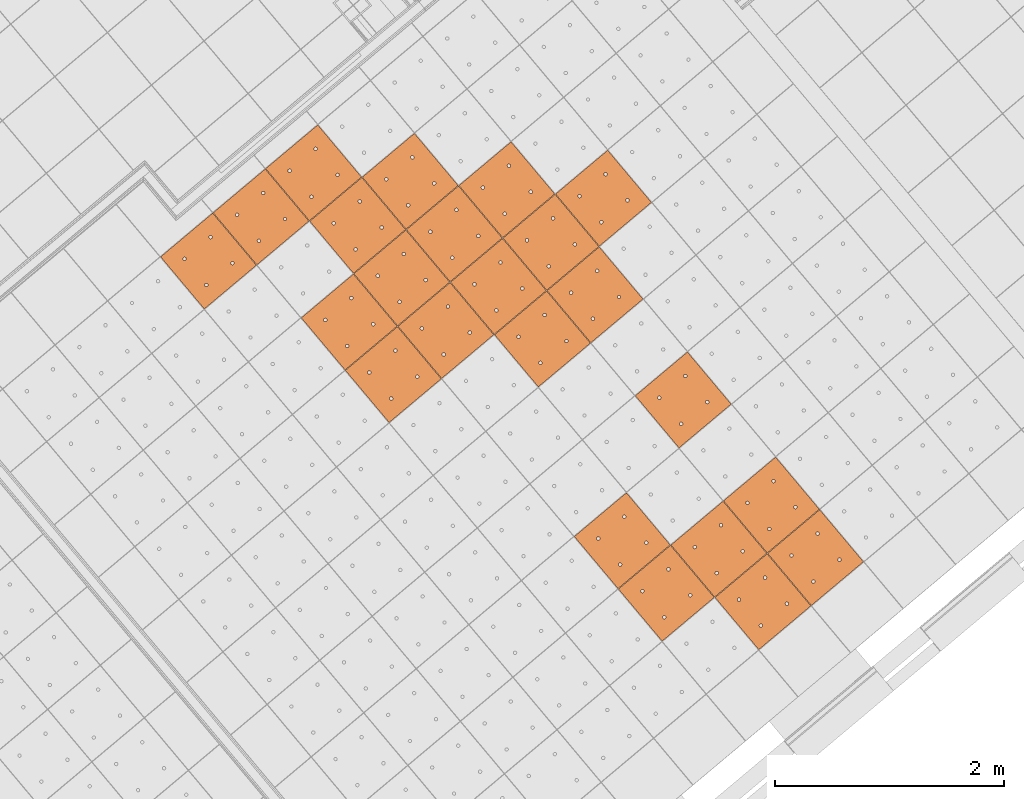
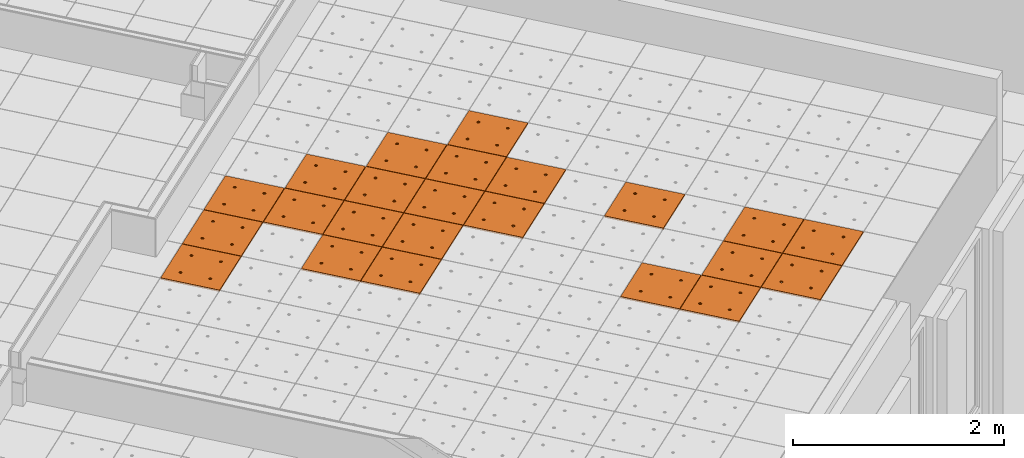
# One storey, part 188 of 338: 23 proxies, 1 element without a shape of its own.
"""IFC2X3 building model written with IfcOpenShell, lengths in millimetres."""

from ifc_helpers import new_model, entity, si_unit, converted_unit, derived_unit, money_unit, direction, frame, origin_with_axes, place, context, subcontext, project, spatial, faceted_brep, source, transform, mapped, material, type_object, type_shapes, element, aggregate, save


model = new_model("IFC2X3")

# Units and contexts
model_context = context("Model", 3, precision=0.01, world=origin_with_axes(), true_north=direction((0.0, 1.0)))
plan_context = context("Plan", 3, precision=0.01, world=origin_with_axes(), true_north=direction((0.0, 1.0)))
body_context = subcontext(model_context, "Body", "Model", "MODEL_VIEW")
ifc_project = project(units=[si_unit("LENGTHUNIT", "METRE", prefix="MILLI"), si_unit("AREAUNIT", "SQUARE_METRE"), si_unit("VOLUMEUNIT", "CUBIC_METRE"), converted_unit("PLANEANGLEUNIT", "DEGREE", entity("IfcPlaneAngleMeasure", 0.0174532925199), si_unit("PLANEANGLEUNIT", "RADIAN"), dimensions=[0, 0, 0, 0, 0, 0, 0]), money_unit("EUR"), converted_unit("TIMEUNIT", "Year", entity("IfcTimeMeasure", 31556926.0), si_unit("TIMEUNIT", "SECOND"), dimensions=[0, 0, 1, 0, 0, 0, 0]), si_unit("MASSUNIT", "GRAM", prefix="KILO"), si_unit("THERMODYNAMICTEMPERATUREUNIT", "DEGREE_CELSIUS"), si_unit("LUMINOUSINTENSITYUNIT", "LUMEN"), si_unit("ENERGYUNIT", "JOULE", prefix="MEGA"), derived_unit("THERMALCONDUCTANCEUNIT", [(si_unit("POWERUNIT", "WATT"), 1), (si_unit("LENGTHUNIT", "METRE"), -1), (si_unit("THERMODYNAMICTEMPERATUREUNIT", "KELVIN"), -1)]), derived_unit("SPECIFICHEATCAPACITYUNIT", [(si_unit("ENERGYUNIT", "JOULE"), 1), (si_unit("MASSUNIT", "GRAM", prefix="KILO"), -1), (si_unit("THERMODYNAMICTEMPERATUREUNIT", "KELVIN"), -1)]), derived_unit("MASSDENSITYUNIT", [(si_unit("MASSUNIT", "GRAM", prefix="KILO"), 1), (si_unit("VOLUMEUNIT", "CUBIC_METRE"), -1)])], contexts=[model_context, plan_context])

# Site, building, storey
site_placement = place(None, origin_with_axes())
site = spatial("IfcSite", under=ifc_project, at=site_placement, Name="Fortuinstraat Woensdrecht", CompositionType="ELEMENT")
building_placement = place(site_placement, origin_with_axes())
building = spatial("IfcBuilding", under=site, at=building_placement, Name="IKC Fortuna", CompositionType="ELEMENT")
storey_placement = place(building_placement, origin_with_axes())
storey = spatial("IfcBuildingStorey", under=building, at=storey_placement, Name="00 begane grond", CompositionType="ELEMENT", Elevation=0.0)

# Covering, proxies
covering_type = type_object("IfcCoveringType", Name="Curtain Wall Type", PredefinedType="CEILING")
covering_placement = place(storey_placement, frame((19785.7448517, -11392.5753808, 4660.0), z_axis=(0.0, 0.0, 1.0), x_axis=(1.0, 0.0, 0.0)))
covering = element("IfcCovering", 1, at=covering_placement, inside=storey, type_object=covering_type, Name="45_Plafondafwerking_P01", PredefinedType="CEILING")
ifc_material = material(Name="Gipsplaat")
building_element_proxy_type = type_object("IfcBuildingElementProxyType", Name="Main Panel 600 x 600 x 20", PredefinedType="NOTDEFINED")
shared_shape = source(origin_with_axes(), body_context, "Body", "Brep", [
    faceted_brep([(2.49999999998, 2.49999999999, -10.0), (300.0, 2.49999999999, -10.0), (300.0, 2.49999999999, 10.0), (2.49999999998, 2.49999999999, 10.0), (2.49999999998, 300.0, -10.0), (2.49999999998, 597.5, -10.0), (300.0, 597.5, -10.0), (597.5, 597.5, -10.0), (597.5, 300.0, -10.0), (597.5, 2.49999999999, -10.0), (166.25, 450.06232995, -10.0), (165.79423259, 452.64711538, -10.0), (164.896546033, 455.11348892, -10.0), (163.58421608, 457.38651108, -10.0), (161.897117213, 459.39711721, -10.0), (159.886511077, 461.08421608, -10.0), (157.613488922, 462.39654603, -10.0), (155.147115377, 463.29423259, -10.0), (152.562329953, 463.75, -10.0), (149.937670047, 463.75, -10.0), (147.352884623, 463.29423259, -10.0), (144.886511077, 462.39654603, -10.0), (142.613488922, 461.08421608, -10.0), (140.602882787, 459.39711721, -10.0), (138.91578392, 457.38651108, -10.0), (137.603453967, 455.11348892, -10.0), (136.705767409, 452.64711538, -10.0), (136.25, 450.06232995, -10.0), (136.25, 448.75, -10.0), (136.25, 447.43767005, -10.0), (136.705767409, 444.85288462, -10.0), (137.603453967, 442.38651108, -10.0), (138.91578392, 440.11348892, -10.0), (140.602882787, 438.10288279, -10.0), (142.613488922, 436.41578392, -10.0), (144.886511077, 435.10345397, -10.0), (147.352884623, 434.20576741, -10.0), (149.937670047, 433.75, -10.0), (152.562329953, 433.75, -10.0), (155.147115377, 434.20576741, -10.0), (157.613488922, 435.10345397, -10.0), (159.886511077, 436.41578392, -10.0), (161.897117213, 438.10288279, -10.0), (163.58421608, 440.11348892, -10.0), (164.896546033, 442.38651108, -10.0), (165.79423259, 444.85288462, -10.0), (166.25, 447.43767005, -10.0), (463.75, 450.06232995, -10.0), (463.29423259, 452.64711538, -10.0), (462.396546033, 455.11348892, -10.0), (461.08421608, 457.38651108, -10.0), (459.397117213, 459.39711721, -10.0), (457.386511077, 461.08421608, -10.0), (455.113488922, 462.39654603, -10.0), (452.647115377, 463.29423259, -10.0), (450.062329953, 463.75, -10.0), (447.437670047, 463.75, -10.0), (444.852884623, 463.29423259, -10.0), (442.386511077, 462.39654603, -10.0), (440.113488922, 461.08421608, -10.0), (438.102882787, 459.39711721, -10.0), (436.41578392, 457.38651108, -10.0), (435.103453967, 455.11348892, -10.0), (434.205767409, 452.64711538, -10.0), (433.75, 450.06232995, -10.0), (433.75, 448.75, -10.0), (433.75, 447.43767005, -10.0), (434.205767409, 444.85288462, -10.0), (435.103453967, 442.38651108, -10.0), (436.41578392, 440.11348892, -10.0), (438.102882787, 438.10288279, -10.0), (440.113488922, 436.41578392, -10.0), (442.386511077, 435.10345397, -10.0), (444.852884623, 434.20576741, -10.0), (447.437670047, 433.75, -10.0), (450.062329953, 433.75, -10.0), (452.647115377, 434.20576741, -10.0), (455.113488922, 435.10345397, -10.0), (457.386511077, 436.41578392, -10.0), (459.397117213, 438.10288279, -10.0), (461.08421608, 440.11348892, -10.0), (462.396546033, 442.38651108, -10.0), (463.29423259, 444.85288462, -10.0), (463.75, 447.43767005, -10.0), (463.75, 152.56232995, -10.0), (463.29423259, 155.14711538, -10.0), (462.396546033, 157.61348892, -10.0), (461.08421608, 159.88651108, -10.0), (459.397117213, 161.89711721, -10.0), (457.386511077, 163.58421608, -10.0), (455.113488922, 164.89654603, -10.0), (452.647115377, 165.79423259, -10.0), (450.062329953, 166.25, -10.0), (447.437670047, 166.25, -10.0), (444.852884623, 165.79423259, -10.0), (442.386511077, 164.89654603, -10.0), (440.113488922, 163.58421608, -10.0), (438.102882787, 161.89711721, -10.0), (436.41578392, 159.88651108, -10.0), (435.103453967, 157.61348892, -10.0), (434.205767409, 155.14711538, -10.0), (433.75, 152.56232995, -10.0), (433.75, 151.25, -10.0), (433.75, 149.93767005, -10.0), (434.205767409, 147.35288462, -10.0), (435.103453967, 144.88651108, -10.0), (436.41578392, 142.61348892, -10.0), (438.102882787, 140.60288279, -10.0), (440.113488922, 138.91578392, -10.0), (442.386511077, 137.60345397, -10.0), (444.852884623, 136.70576741, -10.0), (447.437670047, 136.25, -10.0), (450.062329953, 136.25, -10.0), (452.647115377, 136.70576741, -10.0), (455.113488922, 137.60345397, -10.0), (457.386511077, 138.91578392, -10.0), (459.397117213, 140.60288279, -10.0), (461.08421608, 142.61348892, -10.0), (462.396546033, 144.88651108, -10.0), (463.29423259, 147.35288462, -10.0), (463.75, 149.93767005, -10.0), (166.25, 152.56232995, -10.0), (165.79423259, 155.14711538, -10.0), (164.896546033, 157.61348892, -10.0), (163.58421608, 159.88651108, -10.0), (161.897117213, 161.89711721, -10.0), (159.886511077, 163.58421608, -10.0), (157.613488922, 164.89654603, -10.0), (155.147115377, 165.79423259, -10.0), (152.562329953, 166.25, -10.0), (149.937670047, 166.25, -10.0), (147.352884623, 165.79423259, -10.0), (144.886511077, 164.89654603, -10.0), (142.613488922, 163.58421608, -10.0), (140.602882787, 161.89711721, -10.0), (138.91578392, 159.88651108, -10.0), (137.603453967, 157.61348892, -10.0), (136.705767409, 155.14711538, -10.0), (136.25, 152.56232995, -10.0), (136.25, 151.25, -10.0), (136.25, 149.93767005, -10.0), (136.705767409, 147.35288462, -10.0), (137.603453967, 144.88651108, -10.0), (138.91578392, 142.61348892, -10.0), (140.602882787, 140.60288279, -10.0), (142.613488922, 138.91578392, -10.0), (144.886511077, 137.60345397, -10.0), (147.352884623, 136.70576741, -10.0), (149.937670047, 136.25, -10.0), (152.562329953, 136.25, -10.0), (155.147115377, 136.70576741, -10.0), (157.613488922, 137.60345397, -10.0), (159.886511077, 138.91578392, -10.0), (161.897117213, 140.60288279, -10.0), (163.58421608, 142.61348892, -10.0), (164.896546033, 144.88651108, -10.0), (165.79423259, 147.35288462, -10.0), (166.25, 149.93767005, -10.0), (597.5, 2.49999999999, 10.0), (597.5, 300.0, 10.0), (597.5, 597.5, 10.0), (300.0, 597.5, 10.0), (2.49999999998, 597.5, 10.0), (2.49999999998, 300.0, 10.0), (166.25, 450.06232995, 10.0), (166.25, 447.43767005, 10.0), (165.79423259, 444.85288462, 10.0), (164.896546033, 442.38651108, 10.0), (163.58421608, 440.11348892, 10.0), (161.897117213, 438.10288279, 10.0), (159.886511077, 436.41578392, 10.0), (157.613488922, 435.10345397, 10.0), (155.147115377, 434.20576741, 10.0), (152.562329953, 433.75, 10.0), (149.937670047, 433.75, 10.0), (147.352884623, 434.20576741, 10.0), (144.886511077, 435.10345397, 10.0), (142.613488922, 436.41578392, 10.0), (140.602882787, 438.10288279, 10.0), (138.91578392, 440.11348892, 10.0), (137.603453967, 442.38651108, 10.0), (136.705767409, 444.85288462, 10.0), (136.25, 447.43767005, 10.0), (136.25, 448.75, 10.0), (136.25, 450.06232995, 10.0), (136.705767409, 452.64711538, 10.0), (137.603453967, 455.11348892, 10.0), (138.91578392, 457.38651108, 10.0), (140.602882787, 459.39711721, 10.0), (142.613488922, 461.08421608, 10.0), (144.886511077, 462.39654603, 10.0), (147.352884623, 463.29423259, 10.0), (149.937670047, 463.75, 10.0), (152.562329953, 463.75, 10.0), (155.147115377, 463.29423259, 10.0), (157.613488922, 462.39654603, 10.0), (159.886511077, 461.08421608, 10.0), (161.897117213, 459.39711721, 10.0), (163.58421608, 457.38651108, 10.0), (164.896546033, 455.11348892, 10.0), (165.79423259, 452.64711538, 10.0), (463.75, 450.06232995, 10.0), (463.75, 447.43767005, 10.0), (463.29423259, 444.85288462, 10.0), (462.396546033, 442.38651108, 10.0), (461.08421608, 440.11348892, 10.0), (459.397117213, 438.10288279, 10.0), (457.386511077, 436.41578392, 10.0), (455.113488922, 435.10345397, 10.0), (452.647115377, 434.20576741, 10.0), (450.062329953, 433.75, 10.0), (447.437670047, 433.75, 10.0), (444.852884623, 434.20576741, 10.0), (442.386511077, 435.10345397, 10.0), (440.113488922, 436.41578392, 10.0), (438.102882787, 438.10288279, 10.0), (436.41578392, 440.11348892, 10.0), (435.103453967, 442.38651108, 10.0), (434.205767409, 444.85288462, 10.0), (433.75, 447.43767005, 10.0), (433.75, 448.75, 10.0), (433.75, 450.06232995, 10.0), (434.205767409, 452.64711538, 10.0), (435.103453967, 455.11348892, 10.0), (436.41578392, 457.38651108, 10.0), (438.102882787, 459.39711721, 10.0), (440.113488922, 461.08421608, 10.0), (442.386511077, 462.39654603, 10.0), (444.852884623, 463.29423259, 10.0), (447.437670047, 463.75, 10.0), (450.062329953, 463.75, 10.0), (452.647115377, 463.29423259, 10.0), (455.113488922, 462.39654603, 10.0), (457.386511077, 461.08421608, 10.0), (459.397117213, 459.39711721, 10.0), (461.08421608, 457.38651108, 10.0), (462.396546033, 455.11348892, 10.0), (463.29423259, 452.64711538, 10.0), (463.75, 152.56232995, 10.0), (463.75, 149.93767005, 10.0), (463.29423259, 147.35288462, 10.0), (462.396546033, 144.88651108, 10.0), (461.08421608, 142.61348892, 10.0), (459.397117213, 140.60288279, 10.0), (457.386511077, 138.91578392, 10.0), (455.113488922, 137.60345397, 10.0), (452.647115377, 136.70576741, 10.0), (450.062329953, 136.25, 10.0), (447.437670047, 136.25, 10.0), (444.852884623, 136.70576741, 10.0), (442.386511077, 137.60345397, 10.0), (440.113488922, 138.91578392, 10.0), (438.102882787, 140.60288279, 10.0), (436.41578392, 142.61348892, 10.0), (435.103453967, 144.88651108, 10.0), (434.205767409, 147.35288462, 10.0), (433.75, 149.93767005, 10.0), (433.75, 151.25, 10.0), (433.75, 152.56232995, 10.0), (434.205767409, 155.14711538, 10.0), (435.103453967, 157.61348892, 10.0), (436.41578392, 159.88651108, 10.0), (438.102882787, 161.89711721, 10.0), (440.113488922, 163.58421608, 10.0), (442.386511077, 164.89654603, 10.0), (444.852884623, 165.79423259, 10.0), (447.437670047, 166.25, 10.0), (450.062329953, 166.25, 10.0), (452.647115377, 165.79423259, 10.0), (455.113488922, 164.89654603, 10.0), (457.386511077, 163.58421608, 10.0), (459.397117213, 161.89711721, 10.0), (461.08421608, 159.88651108, 10.0), (462.396546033, 157.61348892, 10.0), (463.29423259, 155.14711538, 10.0), (166.25, 152.56232995, 10.0), (166.25, 149.93767005, 10.0), (165.79423259, 147.35288462, 10.0), (164.896546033, 144.88651108, 10.0), (163.58421608, 142.61348892, 10.0), (161.897117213, 140.60288279, 10.0), (159.886511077, 138.91578392, 10.0), (157.613488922, 137.60345397, 10.0), (155.147115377, 136.70576741, 10.0), (152.562329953, 136.25, 10.0), (149.937670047, 136.25, 10.0), (147.352884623, 136.70576741, 10.0), (144.886511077, 137.60345397, 10.0), (142.613488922, 138.91578392, 10.0), (140.602882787, 140.60288279, 10.0), (138.91578392, 142.61348892, 10.0), (137.603453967, 144.88651108, 10.0), (136.705767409, 147.35288462, 10.0), (136.25, 149.93767005, 10.0), (136.25, 151.25, 10.0), (136.25, 152.56232995, 10.0), (136.705767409, 155.14711538, 10.0), (137.603453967, 157.61348892, 10.0), (138.91578392, 159.88651108, 10.0), (140.602882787, 161.89711721, 10.0), (142.613488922, 163.58421608, 10.0), (144.886511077, 164.89654603, 10.0), (147.352884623, 165.79423259, 10.0), (149.937670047, 166.25, 10.0), (152.562329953, 166.25, 10.0), (155.147115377, 165.79423259, 10.0), (157.613488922, 164.89654603, 10.0), (159.886511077, 163.58421608, 10.0), (161.897117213, 161.89711721, 10.0), (163.58421608, 159.88651108, 10.0), (164.896546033, 157.61348892, 10.0), (165.79423259, 155.14711538, 10.0)], [[[0, 1, 2, 3]], [[0, 4, 5, 6, 7, 8, 9, 1], [10, 11, 12, 13, 14, 15, 16, 17, 18, 19, 20, 21, 22, 23, 24, 25, 26, 27, 28, 29, 30, 31, 32, 33, 34, 35, 36, 37, 38, 39, 40, 41, 42, 43, 44, 45, 46], [47, 48, 49, 50, 51, 52, 53, 54, 55, 56, 57, 58, 59, 60, 61, 62, 63, 64, 65, 66, 67, 68, 69, 70, 71, 72, 73, 74, 75, 76, 77, 78, 79, 80, 81, 82, 83], [84, 85, 86, 87, 88, 89, 90, 91, 92, 93, 94, 95, 96, 97, 98, 99, 100, 101, 102, 103, 104, 105, 106, 107, 108, 109, 110, 111, 112, 113, 114, 115, 116, 117, 118, 119, 120], [121, 122, 123, 124, 125, 126, 127, 128, 129, 130, 131, 132, 133, 134, 135, 136, 137, 138, 139, 140, 141, 142, 143, 144, 145, 146, 147, 148, 149, 150, 151, 152, 153, 154, 155, 156, 157]], [[1, 9, 158, 2]], [[3, 2, 158, 159, 160, 161, 162, 163], [164, 165, 166, 167, 168, 169, 170, 171, 172, 173, 174, 175, 176, 177, 178, 179, 180, 181, 182, 183, 184, 185, 186, 187, 188, 189, 190, 191, 192, 193, 194, 195, 196, 197, 198, 199, 200], [201, 202, 203, 204, 205, 206, 207, 208, 209, 210, 211, 212, 213, 214, 215, 216, 217, 218, 219, 220, 221, 222, 223, 224, 225, 226, 227, 228, 229, 230, 231, 232, 233, 234, 235, 236, 237], [238, 239, 240, 241, 242, 243, 244, 245, 246, 247, 248, 249, 250, 251, 252, 253, 254, 255, 256, 257, 258, 259, 260, 261, 262, 263, 264, 265, 266, 267, 268, 269, 270, 271, 272, 273, 274], [275, 276, 277, 278, 279, 280, 281, 282, 283, 284, 285, 286, 287, 288, 289, 290, 291, 292, 293, 294, 295, 296, 297, 298, 299, 300, 301, 302, 303, 304, 305, 306, 307, 308, 309, 310, 311]], [[4, 0, 3, 163]], [[5, 4, 163, 162]], [[6, 5, 162, 161]], [[7, 6, 161, 160]], [[8, 7, 160, 159]], [[9, 8, 159, 158]], [[11, 10, 164, 200]], [[12, 11, 200, 199]], [[13, 12, 199, 198]], [[14, 13, 198, 197]], [[15, 14, 197, 196]], [[16, 15, 196, 195]], [[17, 16, 195, 194]], [[18, 17, 194, 193]], [[19, 18, 193, 192]], [[20, 19, 192, 191]], [[21, 20, 191, 190]], [[22, 21, 190, 189]], [[23, 22, 189, 188]], [[24, 23, 188, 187]], [[25, 24, 187, 186]], [[26, 25, 186, 185]], [[27, 26, 185, 184]], [[28, 27, 184, 183]], [[29, 28, 183, 182]], [[30, 29, 182, 181]], [[31, 30, 181, 180]], [[32, 31, 180, 179]], [[33, 32, 179, 178]], [[34, 33, 178, 177]], [[35, 34, 177, 176]], [[36, 35, 176, 175]], [[37, 36, 175, 174]], [[38, 37, 174, 173]], [[39, 38, 173, 172]], [[40, 39, 172, 171]], [[41, 40, 171, 170]], [[42, 41, 170, 169]], [[43, 42, 169, 168]], [[44, 43, 168, 167]], [[45, 44, 167, 166]], [[46, 45, 166, 165]], [[10, 46, 165, 164]], [[48, 47, 201, 237]], [[49, 48, 237, 236]], [[50, 49, 236, 235]], [[51, 50, 235, 234]], [[52, 51, 234, 233]], [[53, 52, 233, 232]], [[54, 53, 232, 231]], [[55, 54, 231, 230]], [[56, 55, 230, 229]], [[57, 56, 229, 228]], [[58, 57, 228, 227]], [[59, 58, 227, 226]], [[60, 59, 226, 225]], [[61, 60, 225, 224]], [[62, 61, 224, 223]], [[63, 62, 223, 222]], [[64, 63, 222, 221]], [[65, 64, 221, 220]], [[66, 65, 220, 219]], [[67, 66, 219, 218]], [[68, 67, 218, 217]], [[69, 68, 217, 216]], [[70, 69, 216, 215]], [[71, 70, 215, 214]], [[72, 71, 214, 213]], [[73, 72, 213, 212]], [[74, 73, 212, 211]], [[75, 74, 211, 210]], [[76, 75, 210, 209]], [[77, 76, 209, 208]], [[78, 77, 208, 207]], [[79, 78, 207, 206]], [[80, 79, 206, 205]], [[81, 80, 205, 204]], [[82, 81, 204, 203]], [[83, 82, 203, 202]], [[47, 83, 202, 201]], [[85, 84, 238, 274]], [[86, 85, 274, 273]], [[87, 86, 273, 272]], [[88, 87, 272, 271]], [[89, 88, 271, 270]], [[90, 89, 270, 269]], [[91, 90, 269, 268]], [[92, 91, 268, 267]], [[93, 92, 267, 266]], [[94, 93, 266, 265]], [[95, 94, 265, 264]], [[96, 95, 264, 263]], [[97, 96, 263, 262]], [[98, 97, 262, 261]], [[99, 98, 261, 260]], [[100, 99, 260, 259]], [[101, 100, 259, 258]], [[102, 101, 258, 257]], [[103, 102, 257, 256]], [[104, 103, 256, 255]], [[105, 104, 255, 254]], [[106, 105, 254, 253]], [[107, 106, 253, 252]], [[108, 107, 252, 251]], [[109, 108, 251, 250]], [[110, 109, 250, 249]], [[111, 110, 249, 248]], [[112, 111, 248, 247]], [[113, 112, 247, 246]], [[114, 113, 246, 245]], [[115, 114, 245, 244]], [[116, 115, 244, 243]], [[117, 116, 243, 242]], [[118, 117, 242, 241]], [[119, 118, 241, 240]], [[120, 119, 240, 239]], [[84, 120, 239, 238]], [[122, 121, 275, 311]], [[123, 122, 311, 310]], [[124, 123, 310, 309]], [[125, 124, 309, 308]], [[126, 125, 308, 307]], [[127, 126, 307, 306]], [[128, 127, 306, 305]], [[129, 128, 305, 304]], [[130, 129, 304, 303]], [[131, 130, 303, 302]], [[132, 131, 302, 301]], [[133, 132, 301, 300]], [[134, 133, 300, 299]], [[135, 134, 299, 298]], [[136, 135, 298, 297]], [[137, 136, 297, 296]], [[138, 137, 296, 295]], [[139, 138, 295, 294]], [[140, 139, 294, 293]], [[141, 140, 293, 292]], [[142, 141, 292, 291]], [[143, 142, 291, 290]], [[144, 143, 290, 289]], [[145, 144, 289, 288]], [[146, 145, 288, 287]], [[147, 146, 287, 286]], [[148, 147, 286, 285]], [[149, 148, 285, 284]], [[150, 149, 284, 283]], [[151, 150, 283, 282]], [[152, 151, 282, 281]], [[153, 152, 281, 280]], [[154, 153, 280, 279]], [[155, 154, 279, 278]], [[156, 155, 278, 277]], [[157, 156, 277, 276]], [[121, 157, 276, 275]]]),
])
type_shapes(building_element_proxy_type, [shared_shape])
proxy_1_placement = place(covering_placement, frame((-1608.4097872, 6442.03661099, 1.41220368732e-10), z_axis=(0.0, 0.0, 1.0), x_axis=(1.0, 0.0, 0.0)))
proxy_1 = element("IfcBuildingElementProxy", 2, at=proxy_1_placement, type_object=building_element_proxy_type, material=ifc_material, Name="__600x608 Rockfon Krios", context=body_context, shape_type="MappedRepresentation", body=[
    mapped(shared_shape, transform((36.9769427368, 422.649625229, 0.0), x_axis=(-0.766044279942, -0.642787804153, 0.0), y_axis=(0.642787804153, -0.766044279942, 0.0), z_axis=(0.0, 0.0, 1.0))),
])
proxy_2_placement = place(covering_placement, frame((-2068.03635516, 6056.3639285, 1.60760293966e-10), z_axis=(0.0, 0.0, 1.0), x_axis=(1.0, 0.0, 0.0)))
proxy_2 = element("IfcBuildingElementProxy", 3, at=proxy_2_placement, type_object=building_element_proxy_type, material=ifc_material, Name="__600x609 Rockfon Krios", context=body_context, shape_type="MappedRepresentation", body=[
    mapped(shared_shape, transform((36.9769427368, 422.649625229, 0.0), x_axis=(-0.766044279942, -0.642787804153, 0.0), y_axis=(0.642787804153, -0.766044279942, 0.0), z_axis=(0.0, 0.0, 1.0))),
])
proxy_3_placement = place(covering_placement, frame((-377.437854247, 5908.45615755, 1.21680443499e-10), z_axis=(0.0, 0.0, 1.0), x_axis=(1.0, 0.0, 0.0)))
proxy_3 = element("IfcBuildingElementProxy", 4, at=proxy_3_placement, type_object=building_element_proxy_type, material=ifc_material, Name="__600x626 Rockfon Krios", context=body_context, shape_type="MappedRepresentation", body=[
    mapped(shared_shape, transform((36.9769427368, 422.649625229, 0.0), x_axis=(-0.766044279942, -0.642787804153, 0.0), y_axis=(0.642787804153, -0.766044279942, 0.0), z_axis=(0.0, 0.0, 1.0))),
])
proxy_4_placement = place(covering_placement, frame((-1148.78321923, 6827.70929348, 1.21680443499e-10), z_axis=(0.0, 0.0, 1.0), x_axis=(1.0, 0.0, 0.0)))
proxy_4 = element("IfcBuildingElementProxy", 5, at=proxy_4_placement, type_object=building_element_proxy_type, material=ifc_material, Name="__600x637 Rockfon Krios", context=body_context, shape_type="MappedRepresentation", body=[
    mapped(shared_shape, transform((36.9769427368, 422.649625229, 0.0), x_axis=(-0.766044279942, -0.642787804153, 0.0), y_axis=(0.642787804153, -0.766044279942, 0.0), z_axis=(0.0, 0.0, 1.0))),
])
proxy_5_placement = place(covering_placement, frame((-303.483968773, 6753.75540801, 1.02140518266e-10), z_axis=(0.0, 0.0, 1.0), x_axis=(1.0, 0.0, 0.0)))
proxy_5 = element("IfcBuildingElementProxy", 6, at=proxy_5_placement, type_object=building_element_proxy_type, material=ifc_material, Name="__600x642 Rockfon Krios", context=body_context, shape_type="MappedRepresentation", body=[
    mapped(shared_shape, transform((36.9769427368, 422.649625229, 0.0), x_axis=(-0.766044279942, -0.642787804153, 0.0), y_axis=(0.642787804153, -0.766044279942, 0.0), z_axis=(0.0, 0.0, 1.0))),
])
proxy_6_placement = place(covering_placement, frame((-763.110536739, 6368.08272552, 1.21680443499e-10), z_axis=(0.0, 0.0, 1.0), x_axis=(1.0, 0.0, 0.0)))
proxy_6 = element("IfcBuildingElementProxy", 7, at=proxy_6_placement, type_object=building_element_proxy_type, material=ifc_material, Name="__600x650 Rockfon Krios", context=body_context, shape_type="MappedRepresentation", body=[
    mapped(shared_shape, transform((36.9769427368, 422.649625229, 0.0), x_axis=(-0.766044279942, -0.642787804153, 0.0), y_axis=(0.642787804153, -0.766044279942, 0.0), z_axis=(0.0, 0.0, 1.0))),
])
proxy_7_placement = place(covering_placement, frame((541.815281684, 6679.80152254, 0.0), z_axis=(0.0, 0.0, 1.0), x_axis=(1.0, 0.0, 0.0)))
proxy_7 = element("IfcBuildingElementProxy", 8, at=proxy_7_placement, type_object=building_element_proxy_type, material=ifc_material, Name="__600x663 Rockfon Krios", context=body_context, shape_type="MappedRepresentation", body=[
    mapped(shared_shape, transform((36.9769427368, 422.649625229, 0.0), x_axis=(-0.766044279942, -0.642787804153, 0.0), y_axis=(0.642787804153, -0.766044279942, 0.0), z_axis=(0.0, 0.0, 1.0))),
])
proxy_8_placement = place(covering_placement, frame((-837.064422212, 5522.78347506, 1.41220368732e-10), z_axis=(0.0, 0.0, 1.0), x_axis=(1.0, 0.0, 0.0)))
proxy_8 = element("IfcBuildingElementProxy", 9, at=proxy_8_placement, type_object=building_element_proxy_type, material=ifc_material, Name="__600x682 Rockfon Krios", context=body_context, shape_type="MappedRepresentation", body=[
    mapped(shared_shape, transform((36.9769427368, 422.649625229, 0.0), x_axis=(-0.766044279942, -0.642787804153, 0.0), y_axis=(0.642787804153, -0.766044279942, 0.0), z_axis=(0.0, 0.0, 1.0))),
])
proxy_9_placement = place(covering_placement, frame((1387.11453214, 6605.84763706, 0.0), z_axis=(0.0, 0.0, 1.0), x_axis=(1.0, 0.0, 0.0)))
proxy_9 = element("IfcBuildingElementProxy", 10, at=proxy_9_placement, type_object=building_element_proxy_type, material=ifc_material, Name="__600x709 Rockfon Krios", context=body_context, shape_type="MappedRepresentation", body=[
    mapped(shared_shape, transform((36.9769427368, 422.649625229, 0.0), x_axis=(-0.766044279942, -0.642787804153, 0.0), y_axis=(0.642787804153, -0.766044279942, 0.0), z_axis=(0.0, 0.0, 1.0))),
])
proxy_10_placement = place(covering_placement, frame((927.487964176, 6220.17495457, 0.0), z_axis=(0.0, 0.0, 1.0), x_axis=(1.0, 0.0, 0.0)))
proxy_10 = element("IfcBuildingElementProxy", 11, at=proxy_10_placement, type_object=building_element_proxy_type, material=ifc_material, Name="__600x718 Rockfon Krios", context=body_context, shape_type="MappedRepresentation", body=[
    mapped(shared_shape, transform((36.9769427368, 422.649625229, 0.0), x_axis=(-0.766044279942, -0.642787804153, 0.0), y_axis=(0.642787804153, -0.766044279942, 0.0), z_axis=(0.0, 0.0, 1.0))),
])
proxy_11_placement = place(covering_placement, frame((1313.16064667, 5760.54838661, 0.0), z_axis=(0.0, 0.0, 1.0), x_axis=(1.0, 0.0, 0.0)))
proxy_11 = element("IfcBuildingElementProxy", 12, at=proxy_11_placement, type_object=building_element_proxy_type, material=ifc_material, Name="__600x719 Rockfon Krios", context=body_context, shape_type="MappedRepresentation", body=[
    mapped(shared_shape, transform((36.9769427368, 422.649625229, 0.0), x_axis=(-0.766044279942, -0.642787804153, 0.0), y_axis=(0.642787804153, -0.766044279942, 0.0), z_axis=(0.0, 0.0, 1.0))),
])
proxy_12_placement = place(covering_placement, frame((2084.50601165, 4841.29525068, 0.0), z_axis=(0.0, 0.0, 1.0), x_axis=(1.0, 0.0, 0.0)))
proxy_12 = element("IfcBuildingElementProxy", 13, at=proxy_12_placement, type_object=building_element_proxy_type, material=ifc_material, Name="__600x721 Rockfon Krios", context=body_context, shape_type="MappedRepresentation", body=[
    mapped(shared_shape, transform((36.9769427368, 422.649625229, 0.0), x_axis=(-0.766044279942, -0.642787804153, 0.0), y_axis=(0.642787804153, -0.766044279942, 0.0), z_axis=(0.0, 0.0, 1.0))),
])
proxy_13_placement = place(covering_placement, frame((2855.85137663, 3922.04211475, 0.0), z_axis=(0.0, 0.0, 1.0), x_axis=(1.0, 0.0, 0.0)))
proxy_13 = element("IfcBuildingElementProxy", 14, at=proxy_13_placement, type_object=building_element_proxy_type, material=ifc_material, Name="__600x723 Rockfon Krios", context=body_context, shape_type="MappedRepresentation", body=[
    mapped(shared_shape, transform((36.9769427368, 422.649625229, 0.0), x_axis=(-0.766044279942, -0.642787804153, 0.0), y_axis=(0.642787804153, -0.766044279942, 0.0), z_axis=(0.0, 0.0, 1.0))),
])
proxy_14_placement = place(covering_placement, frame((3241.52405913, 3462.41554678, 0.0), z_axis=(0.0, 0.0, 1.0), x_axis=(1.0, 0.0, 0.0)))
proxy_14 = element("IfcBuildingElementProxy", 15, at=proxy_14_placement, type_object=building_element_proxy_type, material=ifc_material, Name="__600x724 Rockfon Krios", context=body_context, shape_type="MappedRepresentation", body=[
    mapped(shared_shape, transform((36.9769427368, 422.649625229, 0.0), x_axis=(-0.766044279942, -0.642787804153, 0.0), y_axis=(0.642787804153, -0.766044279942, 0.0), z_axis=(0.0, 0.0, 1.0))),
])
proxy_15_placement = place(covering_placement, frame((82.1887137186, 6294.12884005, 1.02140518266e-10), z_axis=(0.0, 0.0, 1.0), x_axis=(1.0, 0.0, 0.0)))
proxy_15 = element("IfcBuildingElementProxy", 16, at=proxy_15_placement, type_object=building_element_proxy_type, material=ifc_material, Name="__600x726 Rockfon Krios", context=body_context, shape_type="MappedRepresentation", body=[
    mapped(shared_shape, transform((36.9769427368, 422.649625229, 0.0), x_axis=(-0.766044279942, -0.642787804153, 0.0), y_axis=(0.642787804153, -0.766044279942, 0.0), z_axis=(0.0, 0.0, 1.0))),
])
proxy_16_placement = place(covering_placement, frame((467.86139621, 5834.50227208, 1.02140518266e-10), z_axis=(0.0, 0.0, 1.0), x_axis=(1.0, 0.0, 0.0)))
proxy_16 = element("IfcBuildingElementProxy", 17, at=proxy_16_placement, type_object=building_element_proxy_type, material=ifc_material, Name="__600x727 Rockfon Krios", context=body_context, shape_type="MappedRepresentation", body=[
    mapped(shared_shape, transform((36.9769427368, 422.649625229, 0.0), x_axis=(-0.766044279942, -0.642787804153, 0.0), y_axis=(0.642787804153, -0.766044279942, 0.0), z_axis=(0.0, 0.0, 1.0))),
])
proxy_17_placement = place(covering_placement, frame((853.534078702, 5374.87570412, 1.02140518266e-10), z_axis=(0.0, 0.0, 1.0), x_axis=(1.0, 0.0, 0.0)))
proxy_17 = element("IfcBuildingElementProxy", 18, at=proxy_17_placement, type_object=building_element_proxy_type, material=ifc_material, Name="__600x728 Rockfon Krios", context=body_context, shape_type="MappedRepresentation", body=[
    mapped(shared_shape, transform((36.9769427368, 422.649625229, 0.0), x_axis=(-0.766044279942, -0.642787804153, 0.0), y_axis=(0.642787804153, -0.766044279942, 0.0), z_axis=(0.0, 0.0, 1.0))),
])
proxy_18_placement = place(covering_placement, frame((2396.22480867, 3536.36943225, 1.02140518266e-10), z_axis=(0.0, 0.0, 1.0), x_axis=(1.0, 0.0, 0.0)))
proxy_18 = element("IfcBuildingElementProxy", 19, at=proxy_18_placement, type_object=building_element_proxy_type, material=ifc_material, Name="__600x732 Rockfon Krios", context=body_context, shape_type="MappedRepresentation", body=[
    mapped(shared_shape, transform((36.9769427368, 422.649625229, 0.0), x_axis=(-0.766044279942, -0.642787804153, 0.0), y_axis=(0.642787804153, -0.766044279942, 0.0), z_axis=(0.0, 0.0, 1.0))),
])
proxy_19_placement = place(covering_placement, frame((2781.89749116, 3076.74286429, 1.02140518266e-10), z_axis=(0.0, 0.0, 1.0), x_axis=(1.0, 0.0, 0.0)))
proxy_19 = element("IfcBuildingElementProxy", 20, at=proxy_19_placement, type_object=building_element_proxy_type, material=ifc_material, Name="__600x733 Rockfon Krios", context=body_context, shape_type="MappedRepresentation", body=[
    mapped(shared_shape, transform((36.9769427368, 422.649625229, 0.0), x_axis=(-0.766044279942, -0.642787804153, 0.0), y_axis=(0.642787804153, -0.766044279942, 0.0), z_axis=(0.0, 0.0, 1.0))),
])
proxy_20_placement = place(covering_placement, frame((8.23482824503, 5448.82958959, 1.21680443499e-10), z_axis=(0.0, 0.0, 1.0), x_axis=(1.0, 0.0, 0.0)))
proxy_20 = element("IfcBuildingElementProxy", 21, at=proxy_20_placement, type_object=building_element_proxy_type, material=ifc_material, Name="__600x736 Rockfon Krios", context=body_context, shape_type="MappedRepresentation", body=[
    mapped(shared_shape, transform((36.9769427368, 422.649625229, 0.0), x_axis=(-0.766044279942, -0.642787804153, 0.0), y_axis=(0.642787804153, -0.766044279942, 0.0), z_axis=(0.0, 0.0, 1.0))),
])
proxy_21_placement = place(covering_placement, frame((1550.92555821, 3610.32331773, 1.21680443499e-10), z_axis=(0.0, 0.0, 1.0), x_axis=(1.0, 0.0, 0.0)))
proxy_21 = element("IfcBuildingElementProxy", 22, at=proxy_21_placement, type_object=building_element_proxy_type, material=ifc_material, Name="__600x740 Rockfon Krios", context=body_context, shape_type="MappedRepresentation", body=[
    mapped(shared_shape, transform((36.9769427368, 422.649625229, 0.0), x_axis=(-0.766044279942, -0.642787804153, 0.0), y_axis=(0.642787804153, -0.766044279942, 0.0), z_axis=(0.0, 0.0, 1.0))),
])
proxy_22_placement = place(covering_placement, frame((1936.5982407, 3150.69674976, 1.21680443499e-10), z_axis=(0.0, 0.0, 1.0), x_axis=(1.0, 0.0, 0.0)))
proxy_22 = element("IfcBuildingElementProxy", 23, at=proxy_22_placement, type_object=building_element_proxy_type, material=ifc_material, Name="__600x741 Rockfon Krios", context=body_context, shape_type="MappedRepresentation", body=[
    mapped(shared_shape, transform((36.9769427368, 422.649625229, 0.0), x_axis=(-0.766044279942, -0.642787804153, 0.0), y_axis=(0.642787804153, -0.766044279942, 0.0), z_axis=(0.0, 0.0, 1.0))),
])
proxy_23_placement = place(covering_placement, frame((-451.39173972, 5063.1569071, 1.41220368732e-10), z_axis=(0.0, 0.0, 1.0), x_axis=(1.0, 0.0, 0.0)))
proxy_23 = element("IfcBuildingElementProxy", 24, at=proxy_23_placement, type_object=building_element_proxy_type, material=ifc_material, Name="__600x745 Rockfon Krios", context=body_context, shape_type="MappedRepresentation", body=[
    mapped(shared_shape, transform((36.9769427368, 422.649625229, 0.0), x_axis=(-0.766044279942, -0.642787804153, 0.0), y_axis=(0.642787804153, -0.766044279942, 0.0), z_axis=(0.0, 0.0, 1.0))),
])
aggregate(covering, [proxy_1, proxy_2, proxy_3, proxy_4, proxy_5, proxy_6, proxy_7, proxy_8, proxy_9, proxy_10, proxy_11, proxy_12, proxy_13, proxy_14, proxy_15, proxy_16, proxy_17, proxy_18, proxy_19, proxy_20, proxy_21, proxy_22, proxy_23])

save(model, "model.ifc")
